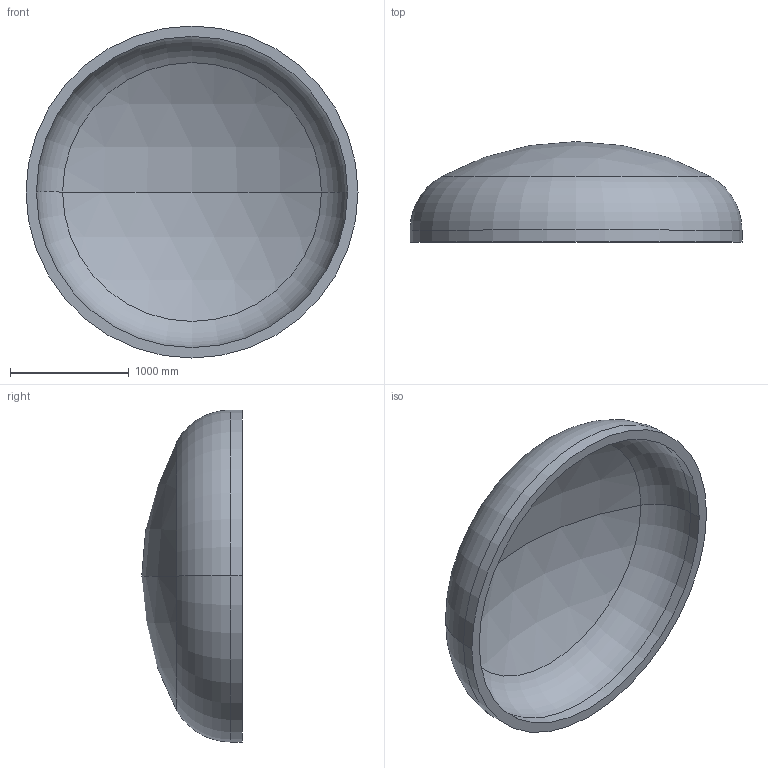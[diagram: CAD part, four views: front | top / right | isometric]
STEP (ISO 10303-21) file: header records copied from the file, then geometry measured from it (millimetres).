
FILE_DESCRIPTION (( 'STEP AP203' ), '1' );
FILE_NAME ('DIN 28013 Korbbogenform_-_Boden DIN 28013 - 2800 x 100 - I - s=88.step', '2016-07-01T17:14:29', ( '' ), ( '' ), 'SwSTEP 2.0', 'SolidWorks 2013', '' );
FILE_SCHEMA (( 'CONFIG_CONTROL_DESIGN' ));
Length unit declared in the file: millimetre
Products named in the file (1): DIN 28013 Korbbogenform_-_Boden DIN 28013 - 2800 x 100 - I - s=88
Bounding box: 2800 x 847.44 x 2800 mm (x, y, z)
Volume: 794889025.7 mm3; surface area: 18831632.8 mm2
Topology: 1 solids, 1 shells, 13 faces, 24 edges, 14 vertices
Faces by surface type: torus 4, cylinder 4, sphere 4, plane 1
Entity records: 407 total; most frequent: DIRECTION 72, CARTESIAN_POINT 52, ORIENTED_EDGE 48, AXIS2_PLACEMENT_3D 34, EDGE_CURVE 24, CIRCLE 20, VERTEX_POINT 14, EDGE_LOOP 14
